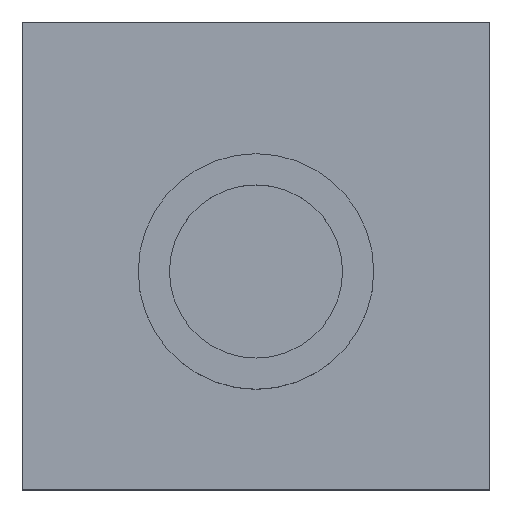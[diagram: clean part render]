
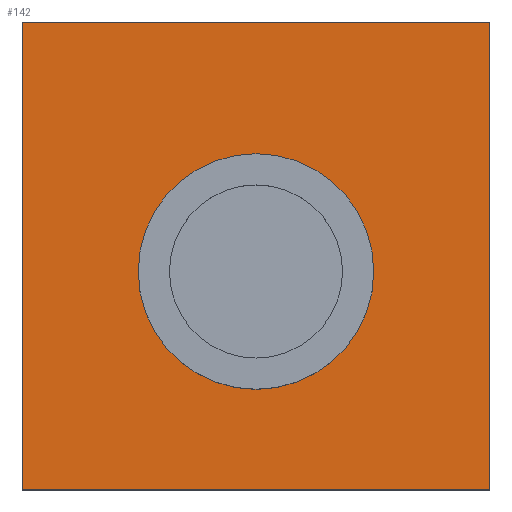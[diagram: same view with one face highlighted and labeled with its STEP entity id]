
A CAD part, top view. The second image highlights one B-rep face of the part: STEP entity #142.
In plain terms, the highlighted planar face has unit normal (0, 0, 1).
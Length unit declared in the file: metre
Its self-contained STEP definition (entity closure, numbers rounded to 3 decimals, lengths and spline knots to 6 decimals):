
#14=CIRCLE('',#166,0.0151);
#34=ORIENTED_EDGE('',*,*,#62,.T.);
#35=ORIENTED_EDGE('',*,*,#52,.T.);
#36=ORIENTED_EDGE('',*,*,#61,.T.);
#37=ORIENTED_EDGE('',*,*,#58,.F.);
#38=ORIENTED_EDGE('',*,*,#55,.T.);
#52=EDGE_CURVE('',#69,#68,#80,.T.);
#55=EDGE_CURVE('',#71,#69,#83,.T.);
#58=EDGE_CURVE('',#71,#73,#86,.T.);
#61=EDGE_CURVE('',#68,#73,#89,.T.);
#62=EDGE_CURVE('',#74,#74,#14,.T.);
#68=VERTEX_POINT('',#223);
#69=VERTEX_POINT('',#225);
#71=VERTEX_POINT('',#231);
#73=VERTEX_POINT('',#237);
#74=VERTEX_POINT('',#244);
#80=LINE('',#224,#92);
#83=LINE('',#230,#95);
#86=LINE('',#236,#98);
#89=LINE('',#241,#101);
#92=VECTOR('',#181,1.);
#95=VECTOR('',#186,1.);
#98=VECTOR('',#191,1.);
#101=VECTOR('',#196,1.);
#106=EDGE_LOOP('',(#34));
#107=EDGE_LOOP('',(#35,#36,#37,#38));
#120=FACE_BOUND('',#106,.T.);
#121=FACE_BOUND('',#107,.T.);
#134=PLANE('',#165);
#142=ADVANCED_FACE('',(#120,#121),#134,.F.);
#165=AXIS2_PLACEMENT_3D('',#242,#197,#198);
#166=AXIS2_PLACEMENT_3D('',#243,#199,#200);
#181=DIRECTION('',(0.,1.,0.));
#186=DIRECTION('',(1.,0.,0.));
#191=DIRECTION('',(0.,1.,0.));
#196=DIRECTION('',(-1.,0.,0.));
#197=DIRECTION('',(0.,0.,-1.));
#198=DIRECTION('',(1.,0.,0.));
#199=DIRECTION('',(0.,0.,-1.));
#200=DIRECTION('',(-1.,0.,0.));
#223=CARTESIAN_POINT('',(0.03,0.032,-0.058));
#224=CARTESIAN_POINT('',(0.03,0.002,-0.058));
#225=CARTESIAN_POINT('',(0.03,-0.028,-0.058));
#230=CARTESIAN_POINT('',(0.,-0.028,-0.058));
#231=CARTESIAN_POINT('',(-0.03,-0.028,-0.058));
#236=CARTESIAN_POINT('',(-0.03,0.002,-0.058));
#237=CARTESIAN_POINT('',(-0.03,0.032,-0.058));
#241=CARTESIAN_POINT('',(0.,0.032,-0.058));
#242=CARTESIAN_POINT('',(0.,-0.005,-0.058));
#243=CARTESIAN_POINT('',(0.,0.,-0.058));
#244=CARTESIAN_POINT('',(-0.0151,0.,-0.058));
